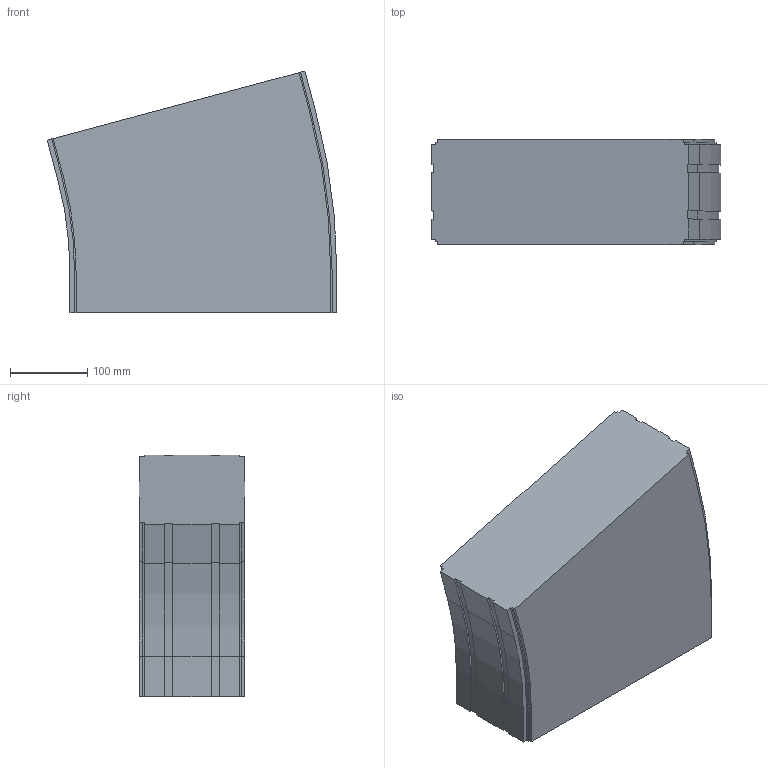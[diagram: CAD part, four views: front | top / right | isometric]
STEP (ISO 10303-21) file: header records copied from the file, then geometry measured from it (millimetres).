
FILE_DESCRIPTION (( 'STEP AP214' ), '1' );
FILE_NAME ('FS-MTC2-150-INOX horizontaalbocht.350 15°.STEP', '2017-02-08T12:40:51', ( '' ), ( '' ), 'SwSTEP 2.0', 'SolidWorks 2016', '' );
FILE_SCHEMA (( 'AUTOMOTIVE_DESIGN' ));
Length unit declared in the file: millimetre
Products named in the file (1): FS-MTC2-150-INOX horizontaalbocht.350 15°
Bounding box: 375.5 x 136.5 x 313.63 mm (x, y, z)
Volume: 12789647.7 mm3; surface area: 362314.5 mm2
Topology: 1 solids, 1 shells, 74 faces, 216 edges, 144 vertices
Faces by surface type: plane 56, cylinder 18
Entity records: 2470 total; most frequent: CARTESIAN_POINT 435, ORIENTED_EDGE 432, DIRECTION 402, EDGE_CURVE 216, LINE 180, VECTOR 180, VERTEX_POINT 144, AXIS2_PLACEMENT_3D 111
